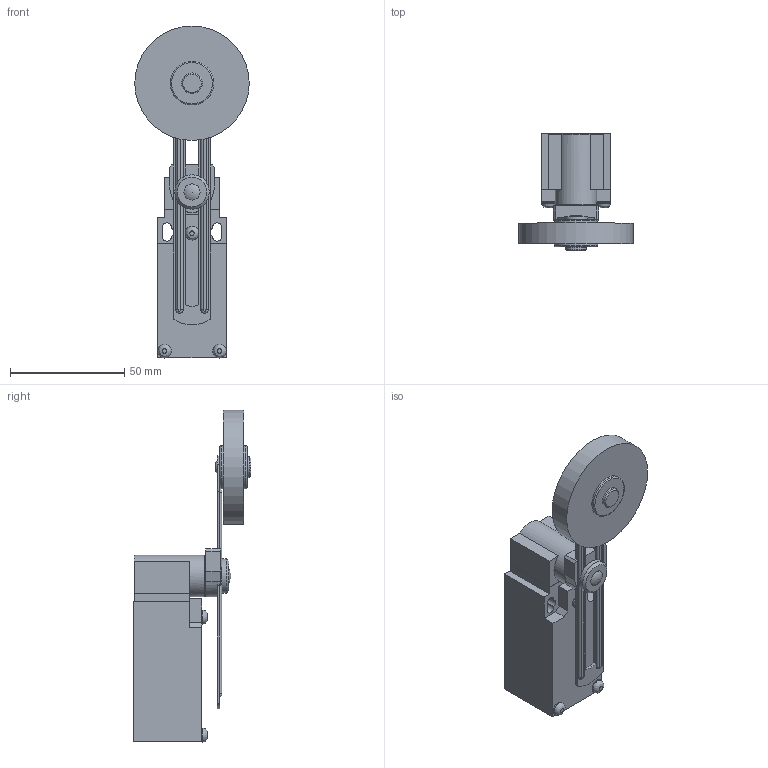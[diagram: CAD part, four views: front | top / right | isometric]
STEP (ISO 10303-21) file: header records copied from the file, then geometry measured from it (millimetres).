
FILE_DESCRIPTION((''),'2;1');
FILE_NAME('D:\Documenti_D\Corrispondenza\Comepi\Catalogo da fare\Modelli Nov 2011\AM\STEP\AM1-F52.iam.stp','2011-11-17T11:37:07',(''),(''),'Autodesk Inventor 2010','Autodesk Inventor 2010','');
FILE_SCHEMA(('AUTOMOTIVE_DESIGN { 1 0 10303 214 1 1 1 1 }'));
Length unit declared in the file: millimetre
Products named in the file (6): AM1-F52; AM1; T52.iam; T52_1; T52_2; T52_3
Assembly tree (5 placements, depth 3):
  AM1-F52
    AM1
    T52.iam
      T52_1
      T52_2
      T52_3
Bounding box: 50 x 51.45 x 145 mm (x, y, z)
Volume: 84322.2 mm3; surface area: 24730.5 mm2
Topology: 5 solids, 5 shells, 121 faces, 286 edges, 187 vertices
Faces by surface type: plane 79, cylinder 29, bspline 7, torus 3, cone 2, sphere 1
Full cylindrical faces by diameter (mm): 6 x5, 7 x1, 9 x1, 15 x2, 18 x1, 19 x2, 20.4 x1, 50 x1
Entity records: 3794 total; most frequent: CARTESIAN_POINT 876, DIRECTION 588, ORIENTED_EDGE 512, EDGE_CURVE 256, AXIS2_PLACEMENT_3D 207, VERTEX_POINT 180, VECTOR 174, LINE 174
